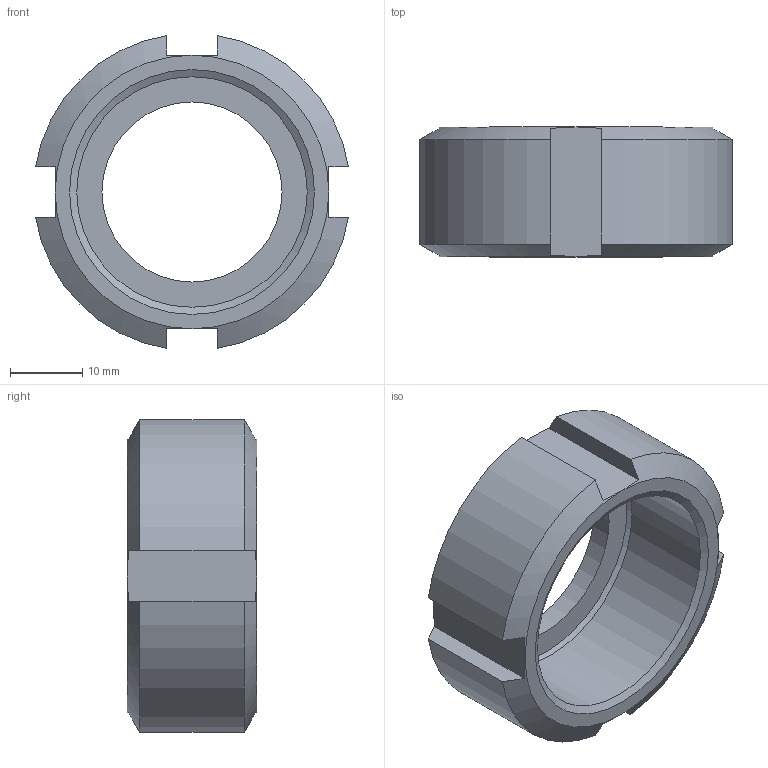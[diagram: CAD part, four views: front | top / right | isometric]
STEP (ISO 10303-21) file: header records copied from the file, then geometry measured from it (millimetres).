
FILE_DESCRIPTION((''),'2;1');
FILE_NAME('K:\2013 konstrukce\2xxxx\20030-Matice převlečná\2003-015 Převlečná matice.stp','2018-08-16T14:42:41',('konstrukce'),(''),'Autodesk Inventor 2010','Autodesk Inventor 2010','');
FILE_SCHEMA(('AUTOMOTIVE_DESIGN { 1 0 10303 214 1 1 1 1 }'));
Length unit declared in the file: millimetre
Products named in the file (1): 2003-015 Převlečná matice
Bounding box: 43.44 x 18 x 43.44 mm (x, y, z)
Volume: 11747.5 mm3; surface area: 6293.3 mm2
Topology: 1 solids, 1 shells, 32 faces, 75 edges, 47 vertices
Faces by surface type: plane 16, cone 10, cylinder 6
Full cylindrical faces by diameter (mm): 25 x1, 32 x1
Entity records: 888 total; most frequent: CARTESIAN_POINT 215, ORIENTED_EDGE 142, DIRECTION 128, EDGE_CURVE 71, AXIS2_PLACEMENT_3D 56, VERTEX_POINT 47, EDGE_LOOP 40, FACE_OUTER_BOUND 32
